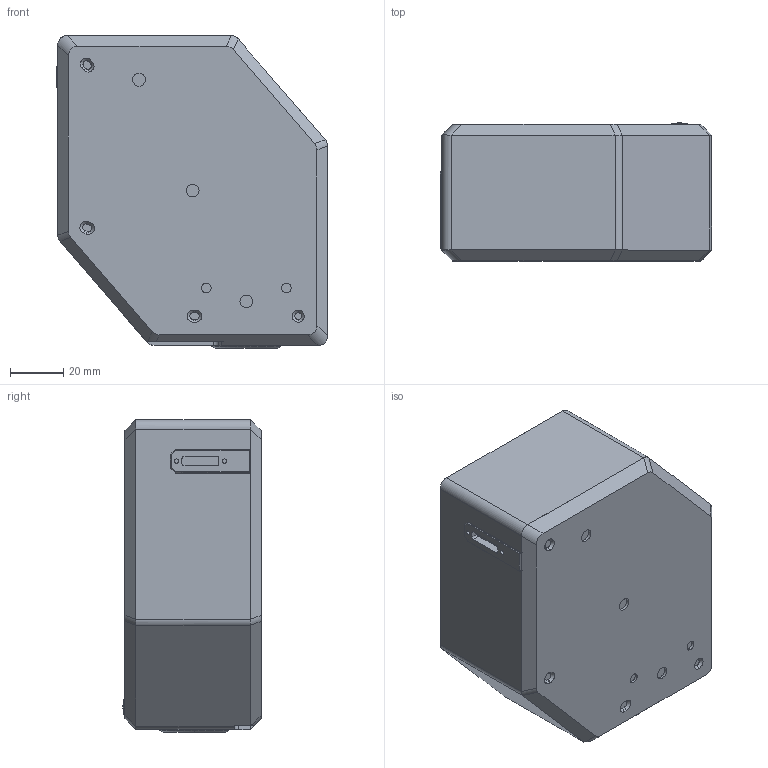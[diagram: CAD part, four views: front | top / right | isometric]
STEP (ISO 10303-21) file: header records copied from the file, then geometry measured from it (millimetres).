
FILE_DESCRIPTION (( 'STEP AP214' ), '1' );
FILE_NAME ('Grand MISS.STEP', '2021-11-16T08:22:47', ( '' ), ( '' ), 'SwSTEP 2.0', 'SolidWorks 2020', '' );
FILE_SCHEMA (( 'AUTOMOTIVE_DESIGN' ));
Length unit declared in the file: millimetre
Products named in the file (6): MISS-BOX-10_Int‚rieur masqu‚; MISS-BOX-02_C2 - int‚rieur masqu‚; Grand MISS; MISS-BOX-03_C2 - Int‚rieur masqu‚; MISS-BOX-05; MISS-BOX-04
Assembly tree (5 placements, depth 2):
  Grand MISS
    MISS-BOX-02_C2 - int‚rieur masqu‚
    MISS-BOX-03_C2 - Int‚rieur masqu‚
    MISS-BOX-05
    MISS-BOX-04
    MISS-BOX-10_Int‚rieur masqu‚
Bounding box: 101.5 x 51.8 x 117.06 mm (x, y, z)
Volume: 520160.8 mm3; surface area: 61753.8 mm2
Topology: 5 solids, 5 shells, 168 faces, 416 edges, 272 vertices
Faces by surface type: plane 78, cylinder 70, cone 12, torus 6, sphere 2
Entity records: 5432 total; most frequent: CARTESIAN_POINT 1138, DIRECTION 835, ORIENTED_EDGE 832, EDGE_CURVE 416, AXIS2_PLACEMENT_3D 303, VERTEX_POINT 272, VECTOR 229, LINE 229
